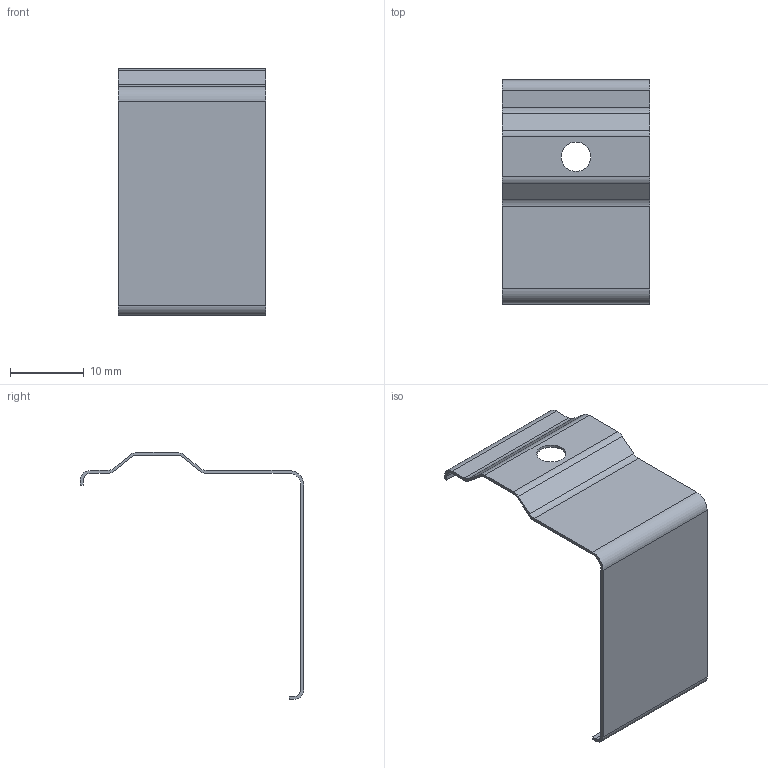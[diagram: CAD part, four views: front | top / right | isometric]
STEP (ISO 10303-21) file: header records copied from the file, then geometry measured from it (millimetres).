
FILE_DESCRIPTION (( 'STEP AP203' ), '1' );
FILE_NAME ('Corner Clip.STEP', '2026-04-20T12:47:54', ( '' ), ( '' ), 'SwSTEP 2.0', 'SolidWorks 2025', '' );
FILE_SCHEMA (( 'CONFIG_CONTROL_DESIGN' ));
Length unit declared in the file: millimetre
Products named in the file (1): Corner Clip
Bounding box: 20 x 30.38 x 33.57 mm (x, y, z)
Volume: 495 mm3; surface area: 2610.3 mm2
Topology: 1 solids, 1 shells, 35 faces, 99 edges, 66 vertices
Faces by surface type: plane 20, cylinder 15
Full cylindrical faces by diameter (mm): 4 x1
Entity records: 1219 total; most frequent: CARTESIAN_POINT 200, DIRECTION 200, ORIENTED_EDGE 196, EDGE_CURVE 98, VECTOR 68, LINE 68, VERTEX_POINT 66, AXIS2_PLACEMENT_3D 66
